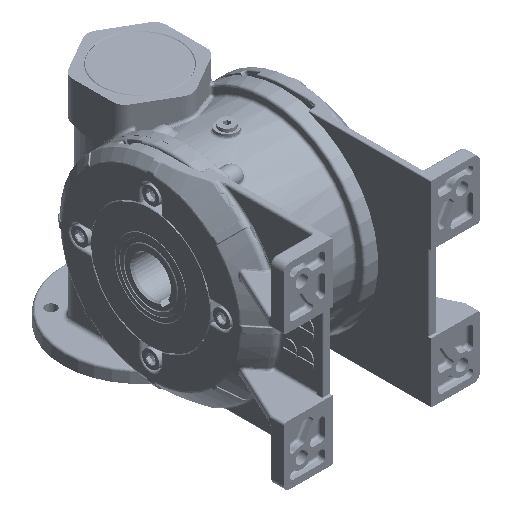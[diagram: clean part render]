
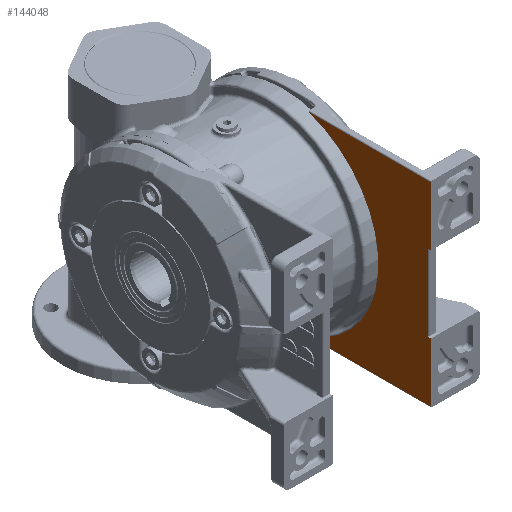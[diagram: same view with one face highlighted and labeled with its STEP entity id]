
A CAD part, isometric view. The second image highlights one B-rep face of the part: STEP entity #144048.
In plain terms, the highlighted planar face has unit normal (-1, 0, 0).
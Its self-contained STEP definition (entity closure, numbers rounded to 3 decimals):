
#9213 = CARTESIAN_POINT ( 'NONE',  ( 38.867, -158.937, -89. ) ) ;
#9216 = DIRECTION ( 'NONE',  ( 0., 0., 1. ) ) ;
#9217 = VECTOR ( 'NONE', #9216, 1000. ) ;
#9219 = CARTESIAN_POINT ( 'NONE',  ( 38.867, -158.937, 244.336 ) ) ;
#9221 = LINE ( 'NONE', #9219, #9217 ) ;
#9227 = CARTESIAN_POINT ( 'NONE',  ( 38.867, -158.937, -35. ) ) ;
#9758 = CARTESIAN_POINT ( 'NONE',  ( 38.867, -158.937, 89. ) ) ;
#10032 = DIRECTION ( 'NONE',  ( 0., 0., 1. ) ) ;
#10034 = VECTOR ( 'NONE', #10032, 1000. ) ;
#10036 = CARTESIAN_POINT ( 'NONE',  ( 38.867, -158.937, 244.336 ) ) ;
#10038 = LINE ( 'NONE', #10036, #10034 ) ;
#10188 = CARTESIAN_POINT ( 'NONE',  ( 38.867, -158.937, 35. ) ) ;
#18738 = DIRECTION ( 'NONE',  ( 0., -1., 0. ) ) ;
#18739 = VECTOR ( 'NONE', #18738, 1000. ) ;
#18742 = CARTESIAN_POINT ( 'NONE',  ( 38.867, -158.937, -89. ) ) ;
#18743 = LINE ( 'NONE', #18742, #18739 ) ;
#18811 = B_SPLINE_CURVE_WITH_KNOTS ( 'NONE', 3,
 ( #18962, #18960, #18958, #18956, #18954, #18952, #18950, #18948, #18946, #18944 ),
 .UNSPECIFIED., .F., .F.,
 ( 4, 2, 2, 2, 4 ),
 ( 0., 0.001, 0.001, 0.002, 0.002 ),
 .UNSPECIFIED. ) ;
#18817 = CARTESIAN_POINT ( 'NONE',  ( 38.867, -155.937, 34. ) ) ;
#18819 = DIRECTION ( 'NONE',  ( 0., 0., 1. ) ) ;
#18821 = VECTOR ( 'NONE', #18819, 1000. ) ;
#18823 = CARTESIAN_POINT ( 'NONE',  ( 38.867, -155.937, 0. ) ) ;
#18825 = CARTESIAN_POINT ( 'NONE',  ( 38.867, -155.937, -34. ) ) ;
#18827 = CARTESIAN_POINT ( 'NONE',  ( 38.867, -156.178, -34.241 ) ) ;
#18829 = CARTESIAN_POINT ( 'NONE',  ( 38.867, -156.425, -34.487 ) ) ;
#18831 = CARTESIAN_POINT ( 'NONE',  ( 38.867, -156.852, -34.771 ) ) ;
#18833 = CARTESIAN_POINT ( 'NONE',  ( 38.867, -157.002, -34.852 ) ) ;
#18835 = CARTESIAN_POINT ( 'NONE',  ( 38.867, -157.328, -34.967 ) ) ;
#18837 = CARTESIAN_POINT ( 'NONE',  ( 38.867, -157.496, -35. ) ) ;
#18839 = CARTESIAN_POINT ( 'NONE',  ( 38.867, -157.669, -35. ) ) ;
#18841 = LINE ( 'NONE', #18823, #18821 ) ;
#18847 = CARTESIAN_POINT ( 'NONE',  ( 38.867, -155.937, -34. ) ) ;
#18852 = B_SPLINE_CURVE_WITH_KNOTS ( 'NONE', 3,
 ( #18839, #18837, #18835, #18833, #18831, #18829, #18827, #18825 ),
 .UNSPECIFIED., .F., .F.,
 ( 4, 2, 2, 4 ),
 ( 0., 0.001, 0.001, 0.002 ),
 .UNSPECIFIED. ) ;
#18857 = CARTESIAN_POINT ( 'NONE',  ( 38.867, -157.669, -35. ) ) ;
#18860 = DIRECTION ( 'NONE',  ( 0., 1., 0. ) ) ;
#18861 = VECTOR ( 'NONE', #18860, 1000. ) ;
#18863 = CARTESIAN_POINT ( 'NONE',  ( 38.867, -37.937, -35. ) ) ;
#18865 = LINE ( 'NONE', #18863, #18861 ) ;
#18870 = DIRECTION ( 'NONE',  ( 0., 0., 1. ) ) ;
#18872 = DIRECTION ( 'NONE',  ( -1., 0., 0. ) ) ;
#18874 = CARTESIAN_POINT ( 'NONE',  ( 38.867, 76.063, 0. ) ) ;
#18875 = AXIS2_PLACEMENT_3D ( 'NONE', #18874, #18872, #18870 ) ;
#18877 = PLANE ( 'NONE',  #18875 ) ;
#18883 = FACE_OUTER_BOUND ( 'NONE', #144055, .T. ) ;
#18944 = CARTESIAN_POINT ( 'NONE',  ( 38.867, -157.669, 35. ) ) ;
#18946 = CARTESIAN_POINT ( 'NONE',  ( 38.867, -157.496, 35. ) ) ;
#18948 = CARTESIAN_POINT ( 'NONE',  ( 38.867, -157.328, 34.967 ) ) ;
#18950 = CARTESIAN_POINT ( 'NONE',  ( 38.867, -157.002, 34.852 ) ) ;
#18952 = CARTESIAN_POINT ( 'NONE',  ( 38.867, -156.852, 34.771 ) ) ;
#18954 = CARTESIAN_POINT ( 'NONE',  ( 38.867, -156.567, 34.582 ) ) ;
#18956 = CARTESIAN_POINT ( 'NONE',  ( 38.867, -156.434, 34.473 ) ) ;
#18958 = CARTESIAN_POINT ( 'NONE',  ( 38.867, -156.18, 34.243 ) ) ;
#18960 = CARTESIAN_POINT ( 'NONE',  ( 38.867, -156.058, 34.121 ) ) ;
#18962 = CARTESIAN_POINT ( 'NONE',  ( 38.867, -155.937, 34. ) ) ;
#18966 = CARTESIAN_POINT ( 'NONE',  ( 38.867, -157.669, 35. ) ) ;
#19380 = CARTESIAN_POINT ( 'NONE',  ( 38.867, -47.186, -89. ) ) ;
#19382 = DIRECTION ( 'NONE',  ( 0., 0., 1. ) ) ;
#19384 = DIRECTION ( 'NONE',  ( 1., 0., 0. ) ) ;
#19385 = CARTESIAN_POINT ( 'NONE',  ( 38.867, -16.937, 0. ) ) ;
#19386 = AXIS2_PLACEMENT_3D ( 'NONE', #19385, #19384, #19382 ) ;
#19388 = CIRCLE ( 'NONE', #19386, 94. ) ;
#19395 = CARTESIAN_POINT ( 'NONE',  ( 38.867, -47.186, 89. ) ) ;
#19397 = DIRECTION ( 'NONE',  ( 0., 1., 0. ) ) ;
#19399 = VECTOR ( 'NONE', #19397, 1000. ) ;
#19401 = CARTESIAN_POINT ( 'NONE',  ( 38.867, 76.063, 89. ) ) ;
#19403 = LINE ( 'NONE', #19401, #19399 ) ;
#19408 = DIRECTION ( 'NONE',  ( 0., 1., 0. ) ) ;
#19409 = VECTOR ( 'NONE', #19408, 1000. ) ;
#19411 = CARTESIAN_POINT ( 'NONE',  ( 38.867, -37.937, 35. ) ) ;
#19425 = LINE ( 'NONE', #19411, #19409 ) ;
#138560 = VERTEX_POINT ( 'NONE', #9227 ) ;
#138566 = EDGE_CURVE ( 'NONE', #138569, #138560, #9221, .T. ) ;
#138569 = VERTEX_POINT ( 'NONE', #9213 ) ;
#138886 = VERTEX_POINT ( 'NONE', #9758 ) ;
#139145 = EDGE_CURVE ( 'NONE', #139201, #138886, #10038, .T. ) ;
#139201 = VERTEX_POINT ( 'NONE', #10188 ) ;
#144029 = EDGE_CURVE ( 'NONE', #144375, #138569, #18743, .T. ) ;
#144034 = ORIENTED_EDGE ( 'NONE', *, *, #138566, .T. ) ;
#144048 = ADVANCED_FACE ( 'NONE', ( #18883 ), #18877, .T. ) ;
#144055 = EDGE_LOOP ( 'NONE', ( #144059, #144071, #144085, #144097, #144341, #144350, #144354, #144367, #144379, #144034 ) ) ;
#144059 = ORIENTED_EDGE ( 'NONE', *, *, #144063, .T. ) ;
#144063 = EDGE_CURVE ( 'NONE', #138560, #144067, #18865, .T. ) ;
#144067 = VERTEX_POINT ( 'NONE', #18857 ) ;
#144071 = ORIENTED_EDGE ( 'NONE', *, *, #144075, .T. ) ;
#144075 = EDGE_CURVE ( 'NONE', #144067, #144081, #18852, .T. ) ;
#144081 = VERTEX_POINT ( 'NONE', #18847 ) ;
#144085 = ORIENTED_EDGE ( 'NONE', *, *, #144089, .T. ) ;
#144089 = EDGE_CURVE ( 'NONE', #144081, #144094, #18841, .T. ) ;
#144094 = VERTEX_POINT ( 'NONE', #18817 ) ;
#144097 = ORIENTED_EDGE ( 'NONE', *, *, #144100, .T. ) ;
#144100 = EDGE_CURVE ( 'NONE', #144094, #144103, #18811, .T. ) ;
#144103 = VERTEX_POINT ( 'NONE', #18966 ) ;
#144341 = ORIENTED_EDGE ( 'NONE', *, *, #144345, .F. ) ;
#144345 = EDGE_CURVE ( 'NONE', #139201, #144103, #19425, .T. ) ;
#144350 = ORIENTED_EDGE ( 'NONE', *, *, #139145, .T. ) ;
#144354 = ORIENTED_EDGE ( 'NONE', *, *, #144359, .T. ) ;
#144359 = EDGE_CURVE ( 'NONE', #138886, #144363, #19403, .T. ) ;
#144363 = VERTEX_POINT ( 'NONE', #19395 ) ;
#144367 = ORIENTED_EDGE ( 'NONE', *, *, #144371, .T. ) ;
#144371 = EDGE_CURVE ( 'NONE', #144363, #144375, #19388, .T. ) ;
#144375 = VERTEX_POINT ( 'NONE', #19380 ) ;
#144379 = ORIENTED_EDGE ( 'NONE', *, *, #144029, .T. ) ;
